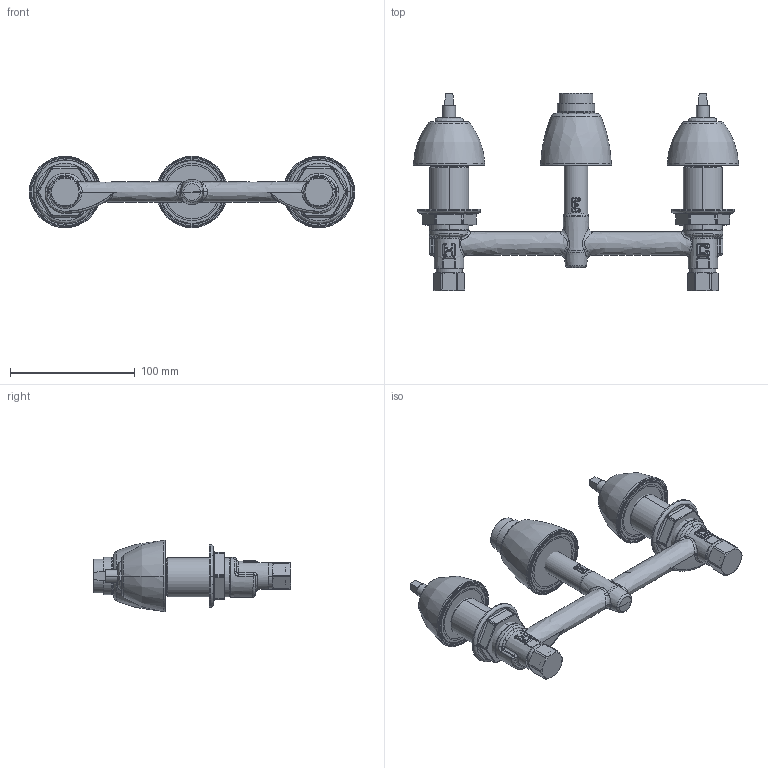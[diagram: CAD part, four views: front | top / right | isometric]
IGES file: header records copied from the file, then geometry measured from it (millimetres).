
Start section:  PTC IGES file: 201-ALESSSPT&HDLCP_REV061411.igs
Global section: file name: 201-ALESSSPT&HDLCP_REV061411.igs; native system: Pro/ENGINEER by Parametric Technology Corporation; preprocessor: 2010230; author: sdmitruk; organization: Unknown; date: 20110614.145223; units: inch
Bounding box: 260.35 x 158.5 x 57.15 mm (x, y, z)
Surface area: 97257.3 mm2 (no closed solid volume)
Topology: 0 solids, 0 shells, 654 faces, 4392 edges, 5818 vertices
Faces by surface type: revolution 339, bspline 315
